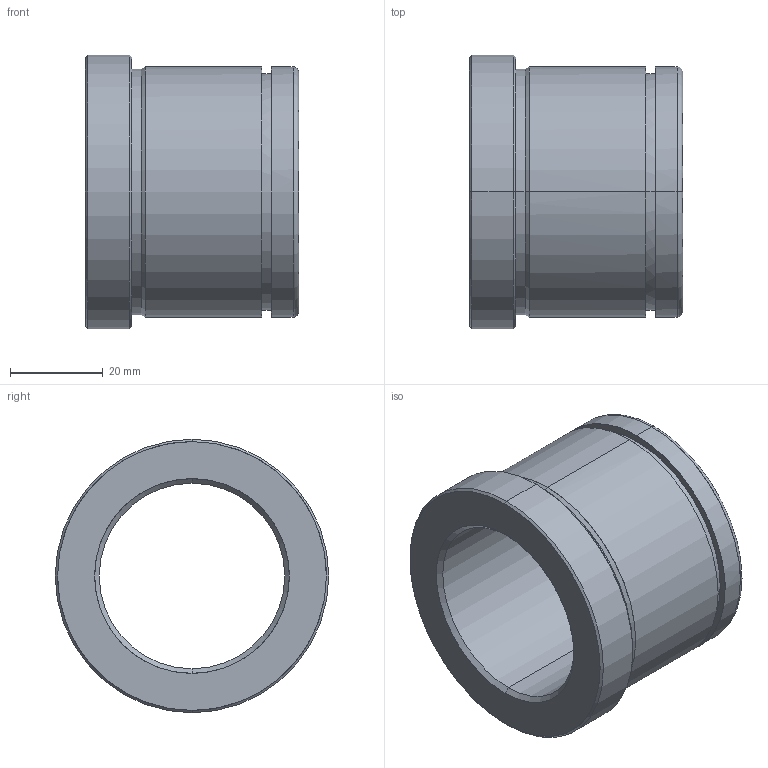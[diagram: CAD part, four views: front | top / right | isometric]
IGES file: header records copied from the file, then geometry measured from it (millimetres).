
Start section: START RECORD GO HERE.
Global section: file name: 553-40X46.igs; native system: DASSAULT SYSTEMES CATIA V5 R20 - www.3ds.com; preprocessor: CATIA Version 5 Release 20 ; author: Utente; organization: NB04-ASUS; date: 20210603.203203; units: millimetre
Bounding box: 46 x 59 x 59 mm (x, y, z)
Surface area: 16867.8 mm2 (no closed solid volume)
Topology: 0 solids, 0 shells, 29 faces, 184 edges, 184 vertices
Faces by surface type: revolution 24, plane 5
